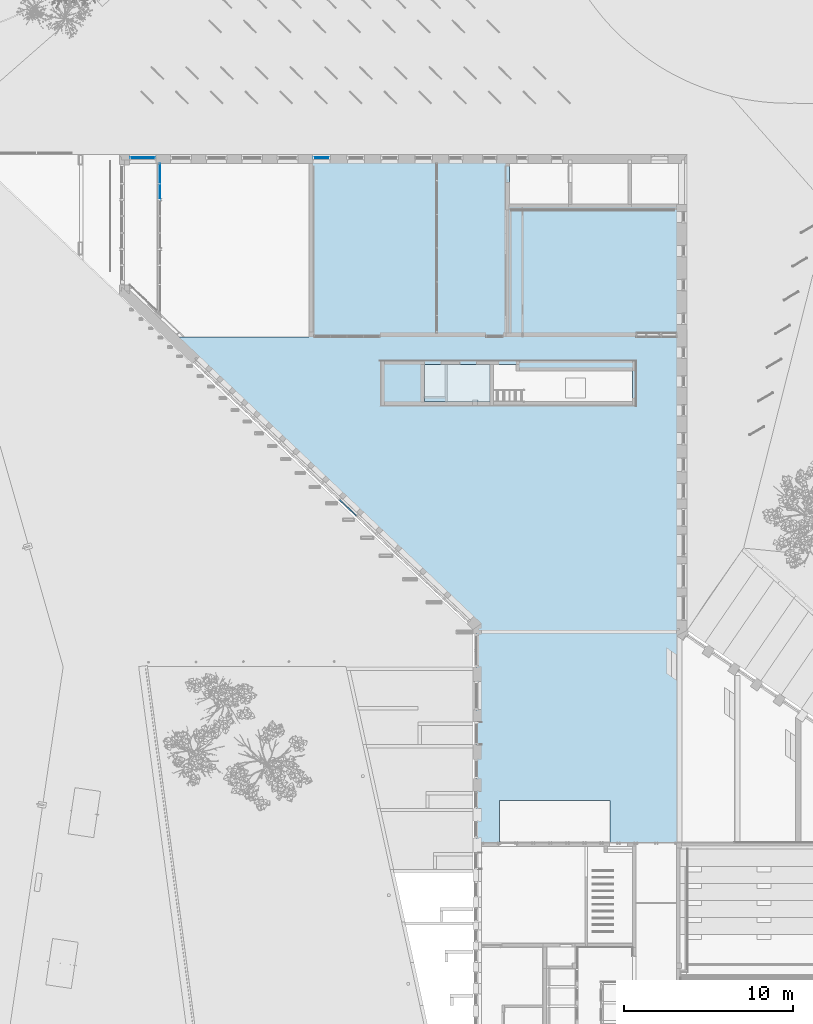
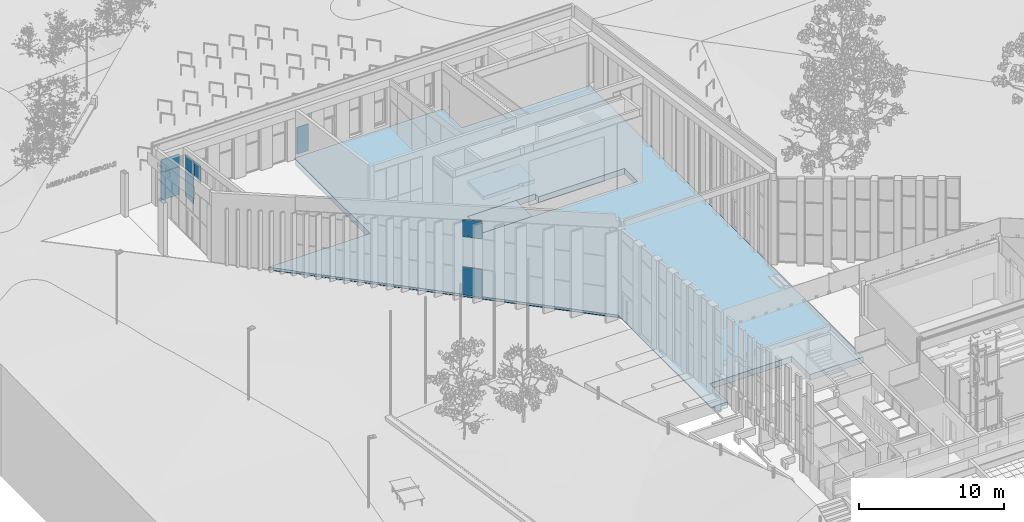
# One storey, part 102 of 246: 8 plates, 3 slabs, 1 opening, 4 elements without a shape of their own.
"""IFC2X3 building model written with IfcOpenShell, lengths in millimetres."""

from ifc_helpers import new_model, entity, si_unit, converted_unit, derived_unit, money_unit, direction, frame, origin_with_axes, place, context, subcontext, project, spatial, faceted_brep, material, material_list, type_object, element, aggregate, save


model = new_model("IFC2X3")

# Units and contexts
model_context = context("Model", 3, precision=0.01, world=origin_with_axes(), true_north=direction((0.0, 1.0)))
body_context = subcontext(model_context, "Body", "Model", "MODEL_VIEW")
ifc_project = project(units=[si_unit("LENGTHUNIT", "METRE", prefix="MILLI"), si_unit("AREAUNIT", "SQUARE_METRE"), si_unit("VOLUMEUNIT", "CUBIC_METRE"), converted_unit("PLANEANGLEUNIT", "DEGREE", entity("IfcPlaneAngleMeasure", 0.0174532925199), si_unit("PLANEANGLEUNIT", "RADIAN"), dimensions=[0, 0, 0, 0, 0, 0, 0]), si_unit("SOLIDANGLEUNIT", "STERADIAN"), money_unit("EUR"), converted_unit("TIMEUNIT", "Year", entity("IfcTimeMeasure", 31556926.0), si_unit("TIMEUNIT", "SECOND"), dimensions=[0, 0, 1, 0, 0, 0, 0]), si_unit("MASSUNIT", "GRAM", prefix="KILO"), si_unit("THERMODYNAMICTEMPERATUREUNIT", "DEGREE_CELSIUS"), si_unit("LUMINOUSINTENSITYUNIT", "LUMEN"), si_unit("ENERGYUNIT", "JOULE", prefix="MEGA"), derived_unit("THERMALCONDUCTANCEUNIT", [(si_unit("POWERUNIT", "WATT"), 1), (si_unit("LENGTHUNIT", "METRE"), -1), (si_unit("THERMODYNAMICTEMPERATUREUNIT", "KELVIN"), -1)]), derived_unit("SPECIFICHEATCAPACITYUNIT", [(si_unit("ENERGYUNIT", "JOULE"), 1), (si_unit("MASSUNIT", "GRAM", prefix="KILO"), -1), (si_unit("THERMODYNAMICTEMPERATUREUNIT", "KELVIN"), -1)]), derived_unit("MASSDENSITYUNIT", [(si_unit("MASSUNIT", "GRAM", prefix="KILO"), 1), (si_unit("VOLUMEUNIT", "CUBIC_METRE"), -1)])], contexts=[model_context])

# Site, building, storey
site_placement = place(None, origin_with_axes())
site = spatial("IfcSite", under=ifc_project, at=site_placement, Name="L.Koidula tn 11b", CompositionType="ELEMENT")
building_placement = place(site_placement, origin_with_axes())
building = spatial("IfcBuilding", under=site, at=building_placement, Name="Rakvere Riigigümnaasium", CompositionType="ELEMENT")
storey_placement = place(building_placement, origin_with_axes())
storey = spatial("IfcBuildingStorey", under=building, at=storey_placement, Name="1.korrus 0,00", CompositionType="ELEMENT", Elevation=0.0)

# Curtain wall, plates
curtain_wall_type = type_object("IfcCurtainWallType", Name="Curtain Wall Type", PredefinedType="NOTDEFINED")
curtain_wall_1_placement = place(storey_placement, frame((33997.0353268, 45217.6604975, 0.0), z_axis=(0.0, 0.0, 1.0), x_axis=(1.0, 0.0, 0.0)))
curtain_wall_1 = element("IfcCurtainWall", 1, at=curtain_wall_1_placement, inside=storey, type_object=curtain_wall_type, Name="KLF-02")
ifc_material_1 = material(Name="Klaaspakett 3x")
plate_type_1 = type_object("IfcPlateType", Name="Distinct Panel 1376 x 2351 x 54", PredefinedType="CURTAIN_PANEL")
plate_1_placement = place(curtain_wall_1_placement, frame((-6388.45001677, 6052.08281364, 1200.00015639), z_axis=(0.0, 0.0, 1.0), x_axis=(0.725960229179, -0.687736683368, 0.0)))
plate_1 = element("IfcPlate", 2, at=plate_1_placement, type_object=plate_type_1, material=ifc_material_1, Name="KLF-22-Klaasid", ObjectType="CURTAIN_PANEL", context=body_context, shape_type="Brep", body=[
    faceted_brep([(-688.00000208, 27.0, 1188.00015483), (-688.00000208, -27.0, 1188.00015483), (687.999998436, -27.0, 1188.00015483), (687.999998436, 27.0, 1188.00015483), (-688.00000208, 27.0, -1163.00015157), (-688.00000208, -27.0, -1163.00015157), (687.999998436, -27.0, -1163.00015157), (687.999998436, 27.0, -1163.00015157)], [[[0, 1, 2, 3]], [[4, 5, 1, 0]], [[1, 5, 6, 2]], [[3, 2, 6, 7]], [[0, 3, 7, 4]], [[7, 6, 5, 4]]]),
])
plate_type_2 = type_object("IfcPlateType", Name="Distinct Panel 1376 x 1532 x 54", PredefinedType="CURTAIN_PANEL")
plate_2_placement = place(curtain_wall_1_placement, frame((-6388.45001677, 6052.08281364, 5706.55218108), z_axis=(0.0, 0.0, 1.0), x_axis=(0.725960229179, -0.687736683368, 0.0)))
plate_2 = element("IfcPlate", 3, at=plate_2_placement, type_object=plate_type_2, material=ifc_material_1, Name="KLF-27-Klaasid", ObjectType="CURTAIN_PANEL", context=body_context, shape_type="Brep", body=[
    faceted_brep([(688.000007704, 27.0, 787.207831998), (688.000007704, -27.0, 787.207831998), (688.000007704, -27.0, -744.551876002), (688.000007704, 27.0, -744.551876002), (-687.999996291, 27.0, 651.537085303), (-687.999996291, -27.0, 651.537085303), (-687.999996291, -27.0, -744.551876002), (-687.999996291, 27.0, -744.551876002)], [[[0, 1, 2, 3]], [[4, 5, 1, 0]], [[1, 5, 6, 2]], [[3, 2, 6, 7]], [[0, 3, 7, 4]], [[7, 6, 5, 4]]]),
])
aggregate(curtain_wall_1, [plate_1, plate_2])

curtain_wall_2_placement = place(storey_placement, frame((15499.784937, 71934.4519938, -4.35310838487e-05), z_axis=(0.0, 0.0, 1.0), x_axis=(1.0, 0.0, 0.0)))
curtain_wall_2 = element("IfcCurtainWall", 4, at=curtain_wall_2_placement, inside=storey, type_object=curtain_wall_type, Name="KLF-08-01")
plate_type_3 = type_object("IfcPlateType", Name="Distinct Panel 1466 x 1031 x 54", PredefinedType="CURTAIN_PANEL")
plate_3_placement = place(curtain_wall_2_placement, frame((0.0, 0.0, 2940.00005924), z_axis=(0.0, 0.0, 1.0), x_axis=(-1.0, 0.0, 0.0)))
plate_3 = element("IfcPlate", 5, at=plate_3_placement, type_object=plate_type_3, material=ifc_material_1, Name="KLF-08-01-Klaasid", ObjectType="CURTAIN_PANEL", context=body_context, shape_type="Brep", body=[
    faceted_brep([(-732.750527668, 27.0, 503.000025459), (-732.750527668, -27.0, 503.000025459), (732.750527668, -27.0, 503.000025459), (732.750527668, 27.0, 503.000025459), (-732.750527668, 27.0, -528.000020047), (-732.750527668, -27.0, -528.000020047), (732.750527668, -27.0, -528.000020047), (732.750527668, 27.0, -528.000020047)], [[[0, 1, 2, 3]], [[4, 5, 1, 0]], [[1, 5, 6, 2]], [[3, 2, 6, 7]], [[0, 3, 7, 4]], [[7, 6, 5, 4]]]),
])
plate_type_4 = type_object("IfcPlateType", Name="Distinct Panel 1466 x 2351 x 54", PredefinedType="CURTAIN_PANEL")
plate_4_placement = place(curtain_wall_2_placement, frame((3.40470762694e-07, 0.0, 1200.00002177), z_axis=(0.0, 0.0, 1.0), x_axis=(-1.0, 0.0, 0.0)))
plate_4 = element("IfcPlate", 6, at=plate_4_placement, type_object=plate_type_4, material=ifc_material_1, Name="KLF-08-01-Klaasid", ObjectType="CURTAIN_PANEL", context=body_context, shape_type="Brep", body=[
    faceted_brep([(-732.750532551, 27.0, 1188.00002155), (-732.750532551, -27.0, 1188.00002155), (732.750531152, -27.0, 1188.00002155), (732.750531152, 27.0, 1188.00002155), (-732.750532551, 27.0, -1163.00002109), (-732.750532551, -27.0, -1163.00002109), (732.750531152, -27.0, -1163.00002109), (732.750531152, 27.0, -1163.00002109)], [[[0, 1, 2, 3]], [[4, 5, 1, 0]], [[1, 5, 6, 2]], [[3, 2, 6, 7]], [[0, 3, 7, 4]], [[7, 6, 5, 4]]]),
])
aggregate(curtain_wall_2, [plate_3, plate_4])

# Curtain wall, plate
curtain_wall_3_placement = place(storey_placement, frame((26049.5354659, 71934.4519938, 100.0), z_axis=(0.0, 0.0, 1.0), x_axis=(1.0, 0.0, 0.0)))
curtain_wall_3 = element("IfcCurtainWall", 7, at=curtain_wall_3_placement, inside=storey, type_object=curtain_wall_type, Name="KLF-08-03")
plate_type_5 = type_object("IfcPlateType", Name="Distinct Panel 926 x 2251 x 54", PredefinedType="CURTAIN_PANEL")
plate_5_placement = place(curtain_wall_3_placement, frame((7.98621613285e-07, 0.0, 1150.00003856), z_axis=(0.0, 0.0, 1.0), x_axis=(-1.0, 0.0, 0.0)))
plate_5 = element("IfcPlate", 8, at=plate_5_placement, type_object=plate_type_5, material=ifc_material_1, Name="KLF-08-06-Klaasid", ObjectType="CURTAIN_PANEL", context=body_context, shape_type="Brep", body=[
    faceted_brep([(-463.000034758, 27.0, 1138.00003369), (-463.000034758, -27.0, 1138.00003369), (463.000049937, -27.0, 1138.00003369), (463.000049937, 27.0, 1138.00003369), (-463.000034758, 27.0, -1113.00004924), (-463.000034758, -27.0, -1113.00004924), (463.000049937, -27.0, -1113.00004924), (463.000049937, 27.0, -1113.00004924)], [[[0, 1, 2, 3]], [[4, 5, 1, 0]], [[1, 5, 6, 2]], [[3, 2, 6, 7]], [[0, 3, 7, 4]], [[7, 6, 5, 4]]]),
])
aggregate(curtain_wall_3, [plate_5])

# Curtain wall, plates
curtain_wall_4_placement = place(storey_placement, frame((16510.0495753, 70995.4517615, -0.000456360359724), z_axis=(0.0, 0.0, 1.0), x_axis=(1.0, 0.0, 0.0)))
curtain_wall_4 = element("IfcCurtainWall", 9, at=curtain_wall_4_placement, inside=storey, type_object=curtain_wall_type, Name="KLF-01B")
ifc_material_2 = material(Name="Klaaspakett 2x")
plate_type_6 = type_object("IfcPlateType", Name="Distinct Panel 1161 x 2351 x 30", PredefinedType="CURTAIN_PANEL")
plate_6_placement = place(curtain_wall_4_placement, frame((0.0, 0.0, 1200.00014553), z_axis=(0.0, 0.0, 1.0), x_axis=(0.0, 1.0, 0.0)))
plate_6 = element("IfcPlate", 10, at=plate_6_placement, type_object=plate_type_6, material=ifc_material_2, Name="KLF-01-Klaasid", ObjectType="CURTAIN_PANEL", context=body_context, shape_type="Brep", body=[
    faceted_brep([(-592.999766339, 15.0, 1188.00011335), (-592.999766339, -15.0, 1188.00011335), (567.999644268, -15.0, 1188.00011335), (567.999644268, 15.0, 1188.00011335), (-592.999766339, 15.0, -1163.00014152), (-592.999766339, -15.0, -1163.00014152), (567.999894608, -15.0, -1163.00014152), (567.999894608, 15.0, -1163.00014152)], [[[0, 1, 2, 3]], [[4, 5, 1, 0]], [[1, 5, 6, 2]], [[3, 2, 6, 7]], [[0, 3, 7, 4]], [[7, 6, 5, 4]]]),
])
plate_type_7 = type_object("IfcPlateType", Name="Distinct Panel 1161 x 1143 x 30", PredefinedType="CURTAIN_PANEL")
plate_7_placement = place(curtain_wall_4_placement, frame((0.0, -2.05729122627e-06, 3036.64072228), z_axis=(0.0, 0.0, 1.0), x_axis=(0.0, 1.0, 0.0)))
plate_7 = element("IfcPlate", 11, at=plate_7_placement, type_object=plate_type_7, material=ifc_material_2, Name="KLF-01-Klaasid", ObjectType="CURTAIN_PANEL", context=body_context, shape_type="Brep", body=[
    faceted_brep([(-592.999768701, 15.0, 683.663961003), (-592.999768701, -15.0, 683.663961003), (567.999892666, -15.0, 518.429259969), (567.999892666, 15.0, 518.429259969), (-592.999768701, 15.0, -624.640437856), (-592.999768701, -15.0, -624.640437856), (567.999629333, -15.0, -624.640437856), (567.999629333, 15.0, -624.640437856)], [[[0, 1, 2, 3]], [[4, 5, 1, 0]], [[1, 5, 6, 2]], [[3, 2, 6, 7]], [[0, 3, 7, 4]], [[7, 6, 5, 4]]]),
])
plate_type_8 = type_object("IfcPlateType", Name="Distinct Panel 926 x 1312 x 30", PredefinedType="CURTAIN_PANEL")
plate_8_placement = place(curtain_wall_4_placement, frame((0.0, -1079.99976778, 3113.49407696), z_axis=(0.0, 0.0, 1.0), x_axis=(0.0, 1.0, 0.0)))
plate_8 = element("IfcPlate", 12, at=plate_8_placement, type_object=plate_type_8, material=ifc_material_2, Name="KLF-01-Klaasid", ObjectType="CURTAIN_PANEL", context=body_context, shape_type="Brep", body=[
    faceted_brep([(-463.000009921, 15.0, 742.015608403), (-463.000009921, -15.0, 742.015608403), (462.999993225, -15.0, 610.22630803), (462.999993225, 15.0, 610.22630803), (-463.000009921, 15.0, -701.493779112), (-463.000009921, -15.0, -701.493779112), (462.999993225, -15.0, -701.493779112), (462.999993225, 15.0, -701.493779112)], [[[0, 1, 2, 3]], [[4, 5, 1, 0]], [[1, 5, 6, 2]], [[3, 2, 6, 7]], [[0, 3, 7, 4]], [[7, 6, 5, 4]]]),
])
aggregate(curtain_wall_4, [plate_6, plate_7, plate_8])

# Slab, opening
ifc_material_3 = material(Name="Parkett")
ifc_material_4 = material(Name="Betoon element / plaat")
ifc_material_5 = material(Name="Soojustus - EPS")
ifc_material_6 = material(Name="Killustik")
ifc_material_list_1 = material_list([ifc_material_3, ifc_material_4, ifc_material_5, ifc_material_5, ifc_material_6])
slab_type_1 = type_object("IfcSlabType", Name="PP-01 490", PredefinedType="NOTDEFINED")
slab_1_placement = place(storey_placement, frame((17173.1685144, 61340.4546496, 0.0), z_axis=(0.0, 0.0, 1.0), x_axis=(1.0, 0.0, 0.0)))
slab_1 = element("IfcSlab", 13, at=slab_1_placement, inside=storey, type_object=slab_type_1, material=ifc_material_list_1, Name="Põrand pinnasel", PredefinedType="NOTDEFINED", context=body_context, shape_type="Brep", body=[
    faceted_brep([(25887.8314831, -29839.9991386, 0.0), (29826.8314791, -29839.9991344, 0.0), (29826.8314791, -17624.6275961, 0.0), (29889.2122086, -17624.6276076, 0.0), (30146.8314683, -17249.0222315, 0.0), (30146.8314683, -17239.9991392, 0.0), (30126.8314791, -17239.9991392, 0.0), (30126.8314791, 7838.67665169, 0.0), (19956.8286398, 7838.67665169, 0.0), (19956.8286398, 10459.9971516, 0.0), (8126.83138975, 10459.9973441, 0.0), (8126.83138593, 0.0, 0.0), (0.0, 0.0, 0.0), (1454.87416362, -1373.88012996, 0.0), (1428.35473761, -1401.96294949, 0.0), (18026.8315378, -17076.3889814, 0.0), (18026.8315378, -29839.9991318, 0.0), (19388.8315593, -29839.9991356, 0.0), (19388.8315664, -27329.9991938, 0.0), (25887.8314831, -27329.9991377, 0.0), (14936.8262282, -3820.0, 0.0), (14936.8262282, -1600.0, 0.0), (20356.8314767, -1600.0, 0.0), (20356.8314767, -2010.0, 0.0), (27216.8314767, -2010.0, 0.0), (27216.8314767, -3820.0, 0.0), (25887.8314831, -29839.9991386, -10.0), (29826.8314791, -29839.9991344, -10.0), (29826.8314791, -17624.6275972, -10.0), (29889.2122086, -17624.6276076, -10.0), (30146.8314683, -17249.0222315, -10.0), (30146.8314683, -17239.9991392, -10.0), (30126.8314791, -17239.9991392, -10.0), (30126.8314791, 7838.67665169, -10.0), (19956.8286398, 7838.67665169, -10.0), (19956.8286398, 10459.9971516, -10.0), (8126.83138975, 10459.9973441, -10.0), (8126.83138593, 0.0, -10.0), (0.0, 0.0, -10.0), (1454.87416362, -1373.88012996, -10.0), (1428.35473761, -1401.96294949, -10.0), (18026.8315378, -17076.3889814, -10.0), (18026.8315378, -29839.9991318, -10.0), (19388.8315593, -29839.9991356, -10.0), (19388.8315664, -27329.9991938, -10.0), (25887.8314831, -27329.9991377, -10.0), (14936.8262282, -3820.0, -10.0), (14936.8262282, -1600.0, -10.0), (20356.8314767, -1600.0, -10.0), (20356.8314767, -2010.0, -10.0), (27216.8314767, -2010.0, -10.0), (27216.8314767, -3820.0, -10.0)], [[[0, 1, 2, 3, 4, 5, 6, 7, 8, 9, 10, 11, 12, 13, 14, 15, 16, 17, 18, 19], [20, 21, 22, 23, 24, 25]], [[26, 27, 1, 0]], [[28, 2, 1, 27]], [[3, 2, 28, 29]], [[4, 3, 29, 30]], [[5, 4, 30, 31]], [[5, 31, 32, 6]], [[6, 32, 33, 7]], [[7, 33, 34, 8]], [[8, 34, 35, 9]], [[9, 35, 36, 10]], [[10, 36, 37, 11]], [[11, 37, 38, 12]], [[12, 38, 39, 13]], [[13, 39, 40, 14]], [[14, 40, 41, 15]], [[15, 41, 42, 16]], [[16, 42, 43, 17]], [[17, 43, 44, 18]], [[18, 44, 45, 19]], [[19, 45, 26, 0]], [[20, 46, 47, 21]], [[21, 47, 48, 22]], [[22, 48, 49, 23]], [[23, 49, 50, 24]], [[24, 50, 51, 25]], [[25, 51, 46, 20]], [[29, 28, 27, 26, 45, 44, 43, 42, 41, 40, 39, 38, 37, 36, 35, 34, 33, 32, 31, 30], [50, 49, 48, 47, 46, 51]]]),
    faceted_brep([(0.0, 0.0, -90.0), (1454.87416362, -1373.88012996, -90.0), (1454.87416362, -1373.88012996, -10.0), (0.0, 0.0, -10.0), (8126.83138593, 0.0, -90.0), (8126.83138975, 10459.9973441, -90.0), (19956.8286398, 10459.9971516, -90.0), (19956.8286398, 7838.67665169, -90.0), (30126.8314791, 7838.67665169, -90.0), (30126.8314791, -17239.9991392, -90.0), (30146.8314683, -17239.9991392, -90.0), (30146.8314792, -29839.9991388, -90.0), (25887.8314831, -29839.9991386, -90.0), (25887.8314831, -27329.9991377, -90.0), (19388.8315664, -27329.9991938, -90.0), (19388.8315593, -29839.9991356, -90.0), (18026.8315378, -29839.9991318, -90.0), (18026.8315378, -17076.3889814, -90.0), (1428.35473761, -1401.96294949, -90.0), (20356.8314767, -2010.0, -90.0), (20356.8314767, -1600.0, -90.0), (14936.8262282, -1600.0, -90.0), (14936.8262282, -3820.0, -90.0), (27216.8314767, -3820.0, -90.0), (27216.8314767, -2010.0, -90.0), (1428.35473761, -1401.96294949, -10.0), (8126.83138593, 0.0, -10.0), (18026.8315378, -17076.3889814, -10.0), (18026.8315378, -29839.9991318, -10.0), (19388.8315593, -29839.9991356, -10.0), (19388.8315664, -27329.9991938, -10.0), (25887.8314831, -27329.9991377, -10.0), (25887.8314831, -29839.9991386, -10.0), (30146.8314792, -29839.9991388, -10.0), (30146.8314683, -17239.9991392, -10.0), (30126.8314791, -17239.9991392, -10.0), (30126.8314791, 7838.67665169, -10.0), (19956.8286398, 7838.67665169, -10.0), (19956.8286398, 10459.9971516, -10.0), (8126.83138975, 10459.9973441, -10.0), (14936.8262282, -1600.0, -10.0), (20356.8314767, -1600.0, -10.0), (20356.8314767, -2010.0, -10.0), (27216.8314767, -2010.0, -10.0), (27216.8314767, -3820.0, -10.0), (14936.8262282, -3820.0, -10.0)], [[[0, 1, 2, 3]], [[1, 0, 4, 5, 6, 7, 8, 9, 10, 11, 12, 13, 14, 15, 16, 17, 18], [19, 20, 21, 22, 23, 24]], [[1, 18, 25, 2]], [[26, 3, 2, 25, 27, 28, 29, 30, 31, 32, 33, 34, 35, 36, 37, 38, 39], [40, 41, 42, 43, 44, 45]], [[4, 0, 3, 26]], [[5, 4, 26, 39]], [[6, 5, 39, 38]], [[7, 6, 38, 37]], [[8, 7, 37, 36]], [[9, 8, 36, 35]], [[10, 9, 35, 34]], [[11, 10, 34, 33]], [[12, 11, 33, 32]], [[13, 12, 32, 31]], [[14, 13, 31, 30]], [[15, 14, 30, 29]], [[16, 15, 29, 28]], [[17, 16, 28, 27]], [[18, 17, 27, 25]], [[20, 19, 42, 41]], [[21, 20, 41, 40]], [[22, 21, 40, 45]], [[23, 22, 45, 44]], [[24, 23, 44, 43]], [[19, 24, 43, 42]]]),
    faceted_brep([(1507.52791323, -1234.65978667, -190.0), (1507.52791323, -1234.65978667, -90.0), (1421.55507219, -1325.39936061, -90.0), (1421.55507219, -1325.39936061, -190.0), (204.115638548, 0.0, -90.0), (204.115638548, 0.0, -190.0), (0.0, 0.0, -90.0), (1454.87416362, -1373.88012996, -90.0), (1428.35473761, -1401.96294949, -90.0), (18001.8315378, -17052.7807519, -90.0), (18001.8315378, -17034.6804498, -90.0), (18001.8315378, -17034.6804498, -190.0), (18001.8315378, -17052.7807519, -190.0), (1428.35473761, -1401.96294949, -190.0), (1454.87416362, -1373.88012996, -190.0), (0.0, 0.0, -190.0)], [[[0, 1, 2, 3]], [[4, 1, 0, 5]], [[1, 4, 6, 7, 8, 9, 10, 2]], [[3, 2, 10, 11]], [[5, 0, 3, 11, 12, 13, 14, 15]], [[4, 5, 15, 6]], [[6, 15, 14, 7]], [[7, 14, 13, 8]], [[12, 9, 8, 13]], [[12, 11, 10, 9]]]),
    faceted_brep([(494.940094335, 0.0, -90.0), (1645.08446122, -1089.47646591, -90.0), (1662.2790296, -1071.32855094, -90.0), (18001.8315378, -16552.5313979, -90.0), (18351.8315378, -16884.1451917, -90.0), (18351.8315378, -29839.9991327, -90.0), (19388.8315593, -29839.9991356, -90.0), (19388.8315664, -27329.9991938, -90.0), (25887.8314831, -27329.9991377, -90.0), (25887.8314831, -29839.9991386, -90.0), (30146.8314792, -29839.9991388, -90.0), (30146.8314688, -17874.4237015, -90.0), (29855.1144971, -17674.3416072, -90.0), (29880.1803145, -17637.7959864, -90.0), (29801.8314791, -17637.7959864, -90.0), (29801.8314791, 7838.67665169, -90.0), (19956.8286398, 7838.67665169, -90.0), (19956.8286398, 10259.9970342, -90.0), (8126.83138967, 10259.9970342, -90.0), (8126.83138593, 0.0, -90.0), (27216.8314767, -2010.0, -90.0), (27216.8314767, -3820.0, -90.0), (14936.8262282, -3820.0, -90.0), (14936.8262282, -1600.0, -90.0), (20356.8314767, -1600.0, -90.0), (20356.8314767, -2010.0, -90.0), (494.940094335, 0.0, -190.0), (1645.08446122, -1089.47646591, -190.0), (1662.2790296, -1071.32855094, -190.0), (18001.8315378, -16552.5313979, -190.0), (18351.8315378, -16884.1451917, -190.0), (18351.8315378, -29839.9991327, -190.0), (19388.8315593, -29839.9991356, -190.0), (19388.8315664, -27329.9991938, -190.0), (25887.8314831, -27329.9991377, -190.0), (25887.8314831, -29839.9991386, -190.0), (30146.8314792, -29839.9991388, -190.0), (30146.8314688, -17874.4237015, -190.0), (29855.1144971, -17674.3416072, -190.0), (29880.1803145, -17637.7959864, -190.0), (29801.8314791, -17637.7959864, -190.0), (29801.8314791, 7838.67665169, -190.0), (19956.8286398, 7838.67665169, -190.0), (19956.8286398, 10259.9970342, -190.0), (8126.83138967, 10259.9970342, -190.0), (8126.83138593, 0.0, -190.0), (27216.8314767, -2010.0, -190.0), (27216.8314767, -3820.0, -190.0), (14936.8262282, -3820.0, -190.0), (14936.8262282, -1600.0, -190.0), (20356.8314767, -1600.0, -190.0), (20356.8314767, -2010.0, -190.0)], [[[0, 1, 2, 3, 4, 5, 6, 7, 8, 9, 10, 11, 12, 13, 14, 15, 16, 17, 18, 19], [20, 21, 22, 23, 24, 25]], [[1, 0, 26, 27]], [[1, 27, 28, 2]], [[28, 29, 3, 2]], [[4, 3, 29, 30]], [[4, 30, 31, 5]], [[6, 5, 31, 32]], [[6, 32, 33, 7]], [[7, 33, 34, 8]], [[8, 34, 35, 9]], [[9, 35, 36, 10]], [[11, 10, 36, 37]], [[11, 37, 38, 12]], [[12, 38, 39, 13]], [[39, 40, 14, 13]], [[14, 40, 41, 15]], [[42, 16, 15, 41]], [[17, 16, 42, 43]], [[17, 43, 44, 18]], [[44, 45, 19, 18]], [[26, 0, 19, 45]], [[20, 46, 47, 21]], [[21, 47, 48, 22]], [[22, 48, 49, 23]], [[23, 49, 50, 24]], [[24, 50, 51, 25]], [[25, 51, 46, 20]], [[27, 26, 45, 44, 43, 42, 41, 40, 39, 38, 37, 36, 35, 34, 33, 32, 31, 30, 29, 28], [48, 47, 46, 51, 50, 49]]]),
    faceted_brep([(494.940094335, 0.0, -190.0), (1645.08446122, -1089.47646591, -190.0), (1662.2790296, -1071.32855094, -190.0), (18001.8315378, -16552.5313979, -190.0), (18351.8315378, -16884.1451917, -190.0), (18351.8315378, -29839.9991327, -190.0), (19388.8315593, -29839.9991356, -190.0), (19388.8315664, -27329.9991938, -190.0), (25887.8314831, -27329.9991377, -190.0), (25887.8314831, -29839.9991386, -190.0), (30146.8314792, -29839.9991388, -190.0), (30146.8314688, -17874.4237015, -190.0), (29855.1144971, -17674.3416072, -190.0), (29880.1803145, -17637.7959864, -190.0), (29801.8314791, -17637.7959864, -190.0), (29801.8314791, 7838.67665169, -190.0), (19956.8286398, 7838.67665169, -190.0), (19956.8286398, 10259.9970342, -190.0), (8126.83138967, 10259.9970342, -190.0), (8126.83138593, 0.0, -190.0), (20356.8314767, -2010.0, -190.0), (27216.8314767, -2010.0, -190.0), (27216.8314767, -3820.0, -190.0), (14936.8262282, -3820.0, -190.0), (14936.8262282, -1600.0, -190.0), (20356.8314767, -1600.0, -190.0), (494.940094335, 0.0, -290.0), (1645.08446122, -1089.47646591, -290.0), (1662.2790296, -1071.32855094, -290.0), (18001.8315378, -16552.5313979, -290.0), (18351.8315378, -16884.1451917, -290.0), (18351.8315378, -29839.9991327, -290.0), (19388.8315593, -29839.9991356, -290.0), (19388.8315664, -27329.9991938, -290.0), (25887.8314831, -27329.9991377, -290.0), (25887.8314831, -29839.9991386, -290.0), (30146.8314792, -29839.9991388, -290.0), (30146.8314688, -17874.4237015, -290.0), (29855.1144971, -17674.3416072, -290.0), (29880.1803145, -17637.7959864, -290.0), (29801.8314791, -17637.7959864, -290.0), (29801.8314791, 7838.67665169, -290.0), (19956.8286398, 7838.67665169, -290.0), (19956.8286398, 10259.9970342, -290.0), (8126.83138967, 10259.9970342, -290.0), (8126.83138593, 0.0, -290.0), (20356.8314767, -2010.0, -290.0), (27216.8314767, -2010.0, -290.0), (27216.8314767, -3820.0, -290.0), (14936.8262282, -3820.0, -290.0), (14936.8262282, -1600.0, -290.0), (20356.8314767, -1600.0, -290.0)], [[[0, 1, 2, 3, 4, 5, 6, 7, 8, 9, 10, 11, 12, 13, 14, 15, 16, 17, 18, 19], [20, 21, 22, 23, 24, 25]], [[1, 0, 26, 27]], [[1, 27, 28, 2]], [[2, 28, 29, 3]], [[30, 4, 3, 29]], [[5, 4, 30, 31]], [[32, 6, 5, 31]], [[7, 6, 32, 33]], [[8, 7, 33, 34]], [[9, 8, 34, 35]], [[10, 9, 35, 36]], [[37, 11, 10, 36]], [[12, 11, 37, 38]], [[13, 12, 38, 39]], [[13, 39, 40, 14]], [[15, 14, 40, 41]], [[41, 42, 16, 15]], [[43, 17, 16, 42]], [[18, 17, 43, 44]], [[18, 44, 45, 19]], [[26, 0, 19, 45]], [[21, 20, 46, 47]], [[22, 21, 47, 48]], [[23, 22, 48, 49]], [[24, 23, 49, 50]], [[25, 24, 50, 51]], [[20, 25, 51, 46]], [[27, 26, 45, 44, 43, 42, 41, 40, 39, 38, 37, 36, 35, 34, 33, 32, 31, 30, 29, 28], [50, 49, 48, 47, 46, 51]]]),
    faceted_brep([(494.940094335, 0.0, -290.0), (1645.08446122, -1089.47646591, -290.0), (1662.2790296, -1071.32855094, -290.0), (18001.8315378, -16552.5313979, -290.0), (18351.8315378, -16884.1451917, -290.0), (18351.8315378, -29839.9991327, -290.0), (19388.8315593, -29839.9991356, -290.0), (19388.8315664, -27329.9991938, -290.0), (25887.8314831, -27329.9991377, -290.0), (25887.8314831, -29839.9991386, -290.0), (30146.8314792, -29839.9991388, -290.0), (30146.8314688, -17874.4237015, -290.0), (29855.1144971, -17674.3416072, -290.0), (29880.1803145, -17637.7959864, -290.0), (29801.8314791, -17637.7959864, -290.0), (29801.8314791, 7838.67665169, -290.0), (19956.8286398, 7838.67665169, -290.0), (19956.8286398, 10259.9970342, -290.0), (8126.83138967, 10259.9970342, -290.0), (8126.83138593, 0.0, -290.0), (20356.8314767, -2010.0, -290.0), (27216.8314767, -2010.0, -290.0), (27216.8314767, -3820.0, -290.0), (14936.8262282, -3820.0, -290.0), (14936.8262282, -1600.0, -290.0), (20356.8314767, -1600.0, -290.0), (494.940094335, 0.0, -490.0), (1645.08446122, -1089.47646591, -490.0), (1662.2790296, -1071.32855094, -490.0), (18001.8315378, -16552.5313979, -490.0), (18351.8315378, -16884.1451917, -490.0), (18351.8315378, -29839.9991327, -490.0), (19388.8315593, -29839.9991356, -490.0), (19388.8315664, -27329.9991938, -490.0), (25887.8314831, -27329.9991377, -490.0), (25887.8314831, -29839.9991386, -490.0), (30146.8314792, -29839.9991388, -490.0), (30146.8314688, -17874.4237015, -490.0), (29855.1144971, -17674.3416072, -490.0), (29880.1803145, -17637.7959864, -490.0), (29801.8314791, -17637.7959864, -490.0), (29801.8314791, 7838.67665169, -490.0), (19956.8286398, 7838.67665169, -490.0), (19956.8286398, 10259.9970342, -490.0), (8126.83138967, 10259.9970342, -490.0), (8126.83138593, 0.0, -490.0), (27216.8314767, -2010.0, -490.0), (20356.8314767, -2010.0, -490.0), (27216.8314767, -3820.0, -490.0), (14936.8262282, -3820.0, -490.0), (14936.8262282, -1600.0, -490.0), (20356.8314767, -1600.0, -490.0)], [[[0, 1, 2, 3, 4, 5, 6, 7, 8, 9, 10, 11, 12, 13, 14, 15, 16, 17, 18, 19], [20, 21, 22, 23, 24, 25]], [[1, 0, 26, 27]], [[1, 27, 28, 2]], [[2, 28, 29, 3]], [[30, 4, 3, 29]], [[5, 4, 30, 31]], [[32, 6, 5, 31]], [[33, 7, 6, 32]], [[34, 8, 7, 33]], [[35, 9, 8, 34]], [[36, 10, 9, 35]], [[37, 11, 10, 36]], [[12, 11, 37, 38]], [[13, 12, 38, 39]], [[13, 39, 40, 14]], [[15, 14, 40, 41]], [[41, 42, 16, 15]], [[43, 17, 16, 42]], [[18, 17, 43, 44]], [[18, 44, 45, 19]], [[26, 0, 19, 45]], [[46, 21, 20, 47]], [[48, 22, 21, 46]], [[49, 23, 22, 48]], [[50, 24, 23, 49]], [[51, 25, 24, 50]], [[47, 20, 25, 51]], [[27, 26, 45, 44, 43, 42, 41, 40, 39, 38, 37, 36, 35, 34, 33, 32, 31, 30, 29, 28], [50, 49, 48, 46, 47, 51]]]),
])
opening_placement = place(slab_1_placement, origin_with_axes())
element("IfcOpeningElement", 14, at=opening_placement, cuts=slab_1, Name="Slab Opening", context=body_context, shape_type="Brep", body=[
    faceted_brep([(20356.8314767, -1600.0, -490.0), (20356.8314767, -2010.0, -490.0), (27216.8314767, -2010.0, -490.0), (27216.8314767, -3820.0, -490.0), (14936.8262282, -3820.0, -490.0), (14936.8262282, -1600.0, -490.0), (20356.8314767, -1600.0, -290.0), (20356.8314767, -2010.0, -290.0), (27216.8314767, -2010.0, -290.0), (27216.8314767, -3820.0, -290.0), (14936.8262282, -3820.0, -290.0), (14936.8262282, -1600.0, -290.0), (20356.8314767, -1600.0, -90.0), (20356.8314767, -2010.0, -90.0), (27216.8314767, -2010.0, -90.0), (27216.8314767, -3820.0, -90.0), (14936.8262282, -3820.0, -90.0), (14936.8262282, -1600.0, -90.0), (20356.8314767, -1600.0, -10.0), (20356.8314767, -2010.0, -10.0), (27216.8314767, -2010.0, -10.0), (27216.8314767, -3820.0, -10.0), (14936.8262282, -3820.0, -10.0), (14936.8262282, -1600.0, -10.0), (20356.8314767, -1600.0, 0.0), (20356.8314767, -2010.0, 0.0), (27216.8314767, -2010.0, 0.0), (27216.8314767, -3820.0, 0.0), (14936.8262282, -3820.0, 0.0), (14936.8262282, -1600.0, 0.0)], [[[0, 1, 2, 3, 4, 5]], [[1, 0, 6, 7]], [[2, 1, 7, 8]], [[3, 2, 8, 9]], [[4, 3, 9, 10]], [[5, 4, 10, 11]], [[0, 5, 11, 6]], [[6, 12, 13, 7]], [[7, 13, 14, 8]], [[8, 14, 15, 9]], [[9, 15, 16, 10]], [[10, 16, 17, 11]], [[11, 17, 12, 6]], [[12, 18, 19, 13]], [[13, 19, 20, 14]], [[14, 20, 21, 15]], [[15, 21, 22, 16]], [[16, 22, 23, 17]], [[17, 23, 18, 12]], [[24, 25, 19, 18]], [[25, 26, 20, 19]], [[26, 27, 21, 20]], [[27, 28, 22, 21]], [[28, 29, 23, 22]], [[29, 24, 18, 23]], [[28, 27, 26, 25, 24, 29]]]),
])

# Slabs
ifc_material_7 = material(Name="Betoon")
ifc_material_8 = material(Name="Betoon õõnespaneel")
ifc_material_list_2 = material_list([ifc_material_7, ifc_material_8])
slab_type_2 = type_object("IfcSlabType", Name="VL-04 305", PredefinedType="NOTDEFINED")
slab_2_placement = place(storey_placement, frame((32109.9947426, 59740.4546496, 2715.0), z_axis=(0.0, 0.0, 1.0), x_axis=(1.0, 0.0, 0.0)))
element("IfcSlab", 15, at=slab_2_placement, inside=storey, type_object=slab_type_2, material=ifc_material_list_2, Name="Vahelagi", PredefinedType="NOTDEFINED", context=body_context, shape_type="Brep", body=[
    faceted_brep([(2850.00525743, -2210.0, 305.0), (2850.00525743, -2120.0, 305.0), (3150.00525743, -2120.0, 305.0), (3150.00525743, -2210.0, 305.0), (4090.00522874, -2210.0, 305.0), (4090.00522874, 0.0, 305.0), (0.0, 0.0, 305.0), (0.0, -2210.0, 305.0), (2850.00525743, -2210.0, 265.0), (2850.00525743, -2120.0, 265.0), (3150.00525743, -2120.0, 265.0), (3150.00525743, -2210.0, 265.0), (4090.00522874, -2210.0, 265.0), (4090.00522874, 0.0, 265.0), (0.0, 0.0, 265.0), (0.0, -2210.0, 265.0)], [[[0, 1, 2, 3, 4, 5, 6, 7]], [[1, 0, 8, 9]], [[2, 1, 9, 10]], [[3, 2, 10, 11]], [[3, 11, 12, 4]], [[4, 12, 13, 5]], [[5, 13, 14, 6]], [[6, 14, 15, 7]], [[8, 0, 7, 15]], [[9, 8, 15, 14, 13, 12, 11, 10]]]),
    faceted_brep([(2850.00525743, -2210.0, 265.0), (2850.00525743, -2120.0, 265.0), (3150.00525743, -2120.0, 265.0), (3150.00525743, -2210.0, 265.0), (4090.00522874, -2210.0, 265.0), (4090.00522874, 0.0, 265.0), (0.0, 0.0, 265.0), (0.0, -2210.0, 265.0), (2850.00525743, -2210.0, 0.0), (2850.00525743, -2120.0, 0.0), (3150.00525743, -2120.0, 0.0), (3150.00525743, -2210.0, 0.0), (4090.00522874, -2210.0, 0.0), (4090.00522874, 0.0, 0.0), (0.0, 0.0, 0.0), (0.0, -2210.0, 0.0)], [[[0, 1, 2, 3, 4, 5, 6, 7]], [[1, 0, 8, 9]], [[2, 1, 9, 10]], [[3, 2, 10, 11]], [[3, 11, 12, 4]], [[4, 12, 13, 5]], [[5, 13, 14, 6]], [[6, 14, 15, 7]], [[8, 0, 7, 15]], [[9, 8, 15, 14, 13, 12, 11, 10]]]),
])
ifc_material_9 = material(Name="Keraamiline plaat")
ifc_material_list_3 = material_list([ifc_material_9, ifc_material_4, ifc_material_5, ifc_material_5, ifc_material_6])
slab_type_3 = type_object("IfcSlabType", Name="PP-01-3 490", PredefinedType="NOTDEFINED")
slab_3_placement = place(storey_placement, frame((32109.9947426, 57520.4546496, 0.0), z_axis=(0.0, 0.0, 1.0), x_axis=(1.0, 0.0, 0.0)))
element("IfcSlab", 16, at=slab_3_placement, inside=storey, type_object=slab_type_3, material=ifc_material_list_3, Name="Põrand pinnasel", PredefinedType="NOTDEFINED", context=body_context, shape_type="Brep", body=[
    faceted_brep([(0.0, 0.0, -10.0), (3880.00522874, 0.0, -10.0), (3880.00522874, 0.0, 0.0), (0.0, 0.0, 0.0), (0.0, 2220.0, -10.0), (3880.00522874, 2220.0, -10.0), (3880.00522874, 2220.0, 0.0), (0.0, 2220.0, 0.0)], [[[0, 1, 2, 3]], [[1, 0, 4, 5]], [[1, 5, 6, 2]], [[7, 3, 2, 6]], [[4, 0, 3, 7]], [[5, 4, 7, 6]]]),
    faceted_brep([(3880.00522874, 0.0, -90.0), (3880.00522874, 0.0, -10.0), (0.0, 0.0, -10.0), (0.0, 0.0, -90.0), (3880.00522874, 2220.0, -90.0), (3880.00522874, 2220.0, -10.0), (0.0, 2220.0, -10.0), (0.0, 2220.0, -90.0)], [[[0, 1, 2, 3]], [[4, 5, 1, 0]], [[2, 1, 5, 6]], [[3, 2, 6, 7]], [[3, 7, 4, 0]], [[7, 6, 5, 4]]]),
    faceted_brep([(3880.00522874, 0.0, -190.0), (3880.00522874, 0.0, -90.0), (0.0, 0.0, -90.0), (0.0, 0.0, -190.0), (3880.00522874, 2220.0, -190.0), (3880.00522874, 2220.0, -90.0), (0.0, 2220.0, -90.0), (0.0, 2220.0, -190.0)], [[[0, 1, 2, 3]], [[4, 5, 1, 0]], [[2, 1, 5, 6]], [[3, 2, 6, 7]], [[3, 7, 4, 0]], [[7, 6, 5, 4]]]),
    faceted_brep([(3880.00522874, 0.0, -290.0), (3880.00522874, 0.0, -190.0), (0.0, 0.0, -190.0), (0.0, 0.0, -290.0), (3880.00522874, 2220.0, -290.0), (3880.00522874, 2220.0, -190.0), (0.0, 2220.0, -190.0), (0.0, 2220.0, -290.0)], [[[0, 1, 2, 3]], [[4, 5, 1, 0]], [[2, 1, 5, 6]], [[3, 2, 6, 7]], [[3, 7, 4, 0]], [[7, 6, 5, 4]]]),
    faceted_brep([(0.0, 0.0, -490.0), (3880.00522874, 0.0, -490.0), (3880.00522874, 0.0, -290.0), (0.0, 0.0, -290.0), (0.0, 2220.0, -490.0), (3880.00522874, 2220.0, -490.0), (3880.00522874, 2220.0, -290.0), (0.0, 2220.0, -290.0)], [[[0, 1, 2, 3]], [[0, 4, 5, 1]], [[1, 5, 6, 2]], [[3, 2, 6, 7]], [[4, 0, 3, 7]], [[5, 4, 7, 6]]]),
])

save(model, "model.ifc")
